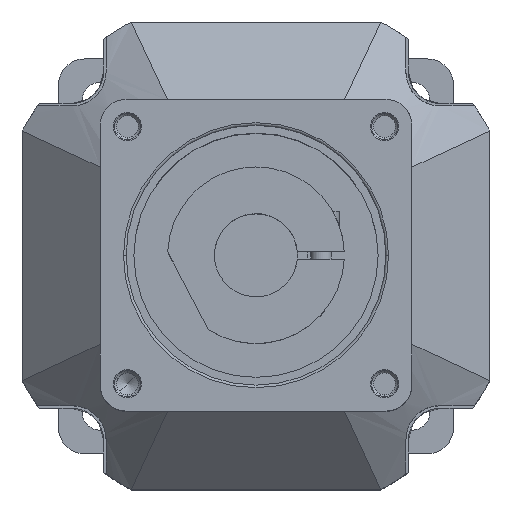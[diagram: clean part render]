
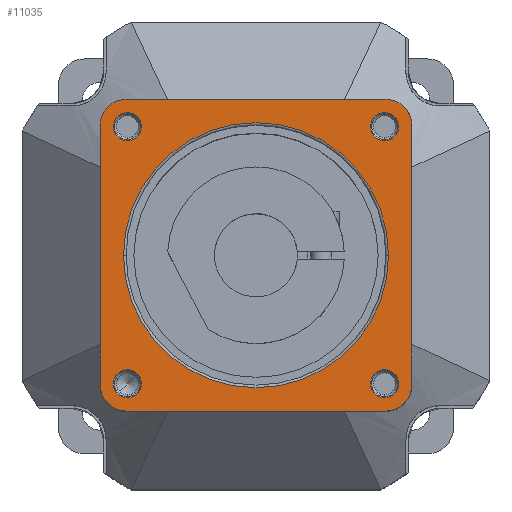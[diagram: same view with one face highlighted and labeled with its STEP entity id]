
A CAD part, top view. The second image highlights one B-rep face of the part: STEP entity #11035.
In plain terms, the highlighted planar face has unit normal (0, 0, 1) as drawn and (0, 1, 0) by its records, which use the part's own axes.
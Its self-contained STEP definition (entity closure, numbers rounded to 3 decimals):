
#9800=CARTESIAN_POINT('',(-25.,41.5,-25.));
#9801=DIRECTION('',(0.,1.,0.));
#9802=DIRECTION('',(0.,0.,-1.));
#9803=AXIS2_PLACEMENT_3D('',#9800,#9801,#9802);
#9805=DIRECTION('',(-1.,0.,0.));
#9806=VECTOR('',#9805,50.);
#9807=CARTESIAN_POINT('',(25.,41.5,-30.));
#9808=LINE('',#9807,#9806);
#9809=CARTESIAN_POINT('',(25.,41.5,-25.));
#9810=DIRECTION('',(0.,1.,0.));
#9811=DIRECTION('',(1.,0.,0.));
#9812=AXIS2_PLACEMENT_3D('',#9809,#9810,#9811);
#9814=DIRECTION('',(0.,0.,-1.));
#9815=VECTOR('',#9814,50.);
#9816=CARTESIAN_POINT('',(30.,41.5,25.));
#9817=LINE('',#9816,#9815);
#9818=CARTESIAN_POINT('',(25.,41.5,25.));
#9819=DIRECTION('',(0.,1.,0.));
#9820=DIRECTION('',(0.,0.,1.));
#9821=AXIS2_PLACEMENT_3D('',#9818,#9819,#9820);
#9823=DIRECTION('',(1.,0.,0.));
#9824=VECTOR('',#9823,50.);
#9825=CARTESIAN_POINT('',(-25.,41.5,30.));
#9826=LINE('',#9825,#9824);
#9827=CARTESIAN_POINT('',(-25.,41.5,25.));
#9828=DIRECTION('',(0.,1.,0.));
#9829=DIRECTION('',(-1.,0.,0.));
#9830=AXIS2_PLACEMENT_3D('',#9827,#9828,#9829);
#9832=DIRECTION('',(0.,0.,1.));
#9833=VECTOR('',#9832,50.);
#9834=CARTESIAN_POINT('',(-30.,41.5,-25.));
#9835=LINE('',#9834,#9833);
#9836=CARTESIAN_POINT('',(-24.749,41.5,24.749));
#9837=DIRECTION('',(0.,-1.,0.));
#9838=DIRECTION('',(1.,0.,0.));
#9839=AXIS2_PLACEMENT_3D('',#9836,#9837,#9838);
#9846=CARTESIAN_POINT('',(-24.749,41.5,24.749));
#9847=DIRECTION('',(0.,-1.,0.));
#9848=DIRECTION('',(-1.,0.,0.));
#9849=AXIS2_PLACEMENT_3D('',#9846,#9847,#9848);
#9882=CARTESIAN_POINT('',(-24.749,41.5,-24.749));
#9883=DIRECTION('',(0.,-1.,0.));
#9884=DIRECTION('',(1.,0.,0.));
#9885=AXIS2_PLACEMENT_3D('',#9882,#9883,#9884);
#9892=CARTESIAN_POINT('',(-24.749,41.5,-24.749));
#9893=DIRECTION('',(0.,-1.,0.));
#9894=DIRECTION('',(-1.,0.,0.));
#9895=AXIS2_PLACEMENT_3D('',#9892,#9893,#9894);
#9928=CARTESIAN_POINT('',(24.749,41.5,-24.749));
#9929=DIRECTION('',(0.,-1.,0.));
#9930=DIRECTION('',(1.,0.,0.));
#9931=AXIS2_PLACEMENT_3D('',#9928,#9929,#9930);
#9938=CARTESIAN_POINT('',(24.749,41.5,-24.749));
#9939=DIRECTION('',(0.,-1.,0.));
#9940=DIRECTION('',(-1.,0.,0.));
#9941=AXIS2_PLACEMENT_3D('',#9938,#9939,#9940);
#9978=CARTESIAN_POINT('',(24.749,41.5,24.749));
#9979=DIRECTION('',(0.,-1.,0.));
#9980=DIRECTION('',(1.,0.,0.));
#9981=AXIS2_PLACEMENT_3D('',#9978,#9979,#9980);
#9988=CARTESIAN_POINT('',(24.749,41.5,24.749));
#9989=DIRECTION('',(0.,-1.,0.));
#9990=DIRECTION('',(-1.,0.,0.));
#9991=AXIS2_PLACEMENT_3D('',#9988,#9989,#9990);
#10042=CARTESIAN_POINT('',(0.,41.5,0.));
#10043=DIRECTION('',(0.,-1.,0.));
#10044=DIRECTION('',(0.,0.,1.));
#10045=AXIS2_PLACEMENT_3D('',#10042,#10043,#10044);
#10057=CARTESIAN_POINT('',(0.,41.5,0.));
#10058=DIRECTION('',(0.,-1.,0.));
#10059=DIRECTION('',(0.,0.,-1.));
#10060=AXIS2_PLACEMENT_3D('',#10057,#10058,#10059);
#10262=CARTESIAN_POINT('',(-30.,41.5,-25.));
#10263=CARTESIAN_POINT('',(-30.,41.5,25.));
#10264=VERTEX_POINT('',#10262);
#10265=VERTEX_POINT('',#10263);
#10266=CARTESIAN_POINT('',(-25.,41.5,30.));
#10267=CARTESIAN_POINT('',(25.,41.5,30.));
#10268=VERTEX_POINT('',#10266);
#10269=VERTEX_POINT('',#10267);
#10270=CARTESIAN_POINT('',(30.,41.5,25.));
#10271=CARTESIAN_POINT('',(30.,41.5,-25.));
#10272=VERTEX_POINT('',#10270);
#10273=VERTEX_POINT('',#10271);
#10274=CARTESIAN_POINT('',(25.,41.5,-30.));
#10275=CARTESIAN_POINT('',(-25.,41.5,-30.));
#10276=VERTEX_POINT('',#10274);
#10277=VERTEX_POINT('',#10275);
#10360=CARTESIAN_POINT('',(27.449,41.5,24.749));
#10361=CARTESIAN_POINT('',(22.049,41.5,24.749));
#10362=VERTEX_POINT('',#10360);
#10363=VERTEX_POINT('',#10361);
#10368=CARTESIAN_POINT('',(-22.049,41.5,24.749));
#10369=CARTESIAN_POINT('',(-27.449,41.5,24.749));
#10370=VERTEX_POINT('',#10368);
#10371=VERTEX_POINT('',#10369);
#10376=CARTESIAN_POINT('',(-22.049,41.5,-24.749));
#10377=CARTESIAN_POINT('',(-27.449,41.5,-24.749));
#10378=VERTEX_POINT('',#10376);
#10379=VERTEX_POINT('',#10377);
#10384=CARTESIAN_POINT('',(27.449,41.5,-24.749));
#10385=CARTESIAN_POINT('',(22.049,41.5,-24.749));
#10386=VERTEX_POINT('',#10384);
#10387=VERTEX_POINT('',#10385);
#10432=CARTESIAN_POINT('',(0.,41.5,25.5));
#10433=CARTESIAN_POINT('',(0.,41.5,-25.5));
#10434=VERTEX_POINT('',#10432);
#10435=VERTEX_POINT('',#10433);
#10989=CARTESIAN_POINT('',(0.,41.5,0.));
#10990=DIRECTION('',(0.,-1.,0.));
#10991=DIRECTION('',(-1.,0.,0.));
#10992=AXIS2_PLACEMENT_3D('',#10989,#10990,#10991);
#10993=PLANE('',#10992);
#10994=ORIENTED_EDGE('',*,*,#10887,.F.);
#10995=ORIENTED_EDGE('',*,*,#10905,.F.);
#10996=ORIENTED_EDGE('',*,*,#10983,.F.);
#10997=ORIENTED_EDGE('',*,*,#10692,.F.);
#10998=ORIENTED_EDGE('',*,*,#10711,.F.);
#10999=ORIENTED_EDGE('',*,*,#10727,.F.);
#11001=ORIENTED_EDGE('',*,*,#11000,.F.);
#11002=ORIENTED_EDGE('',*,*,#10812,.F.);
#11003=EDGE_LOOP('',(#10994,#10995,#10996,#10997,#10998,#10999,#11001,#11002));
#11004=FACE_OUTER_BOUND('',#11003,.F.);
#11006=ORIENTED_EDGE('',*,*,#11005,.F.);
#11008=ORIENTED_EDGE('',*,*,#11007,.F.);
#11009=EDGE_LOOP('',(#11006,#11008));
#11010=FACE_BOUND('',#11009,.F.);
#11012=ORIENTED_EDGE('',*,*,#11011,.F.);
#11014=ORIENTED_EDGE('',*,*,#11013,.F.);
#11015=EDGE_LOOP('',(#11012,#11014));
#11016=FACE_BOUND('',#11015,.F.);
#11018=ORIENTED_EDGE('',*,*,#11017,.F.);
#11020=ORIENTED_EDGE('',*,*,#11019,.F.);
#11021=EDGE_LOOP('',(#11018,#11020));
#11022=FACE_BOUND('',#11021,.F.);
#11024=ORIENTED_EDGE('',*,*,#11023,.F.);
#11026=ORIENTED_EDGE('',*,*,#11025,.F.);
#11027=EDGE_LOOP('',(#11024,#11026));
#11028=FACE_BOUND('',#11027,.F.);
#11030=ORIENTED_EDGE('',*,*,#11029,.F.);
#11032=ORIENTED_EDGE('',*,*,#11031,.F.);
#11033=EDGE_LOOP('',(#11030,#11032));
#11034=FACE_BOUND('',#11033,.F.);
#11035=ADVANCED_FACE('',(#11004,#11010,#11016,#11022,#11028,#11034),#10993,.F.);
#9804=CIRCLE('',#9803,5.);
#9813=CIRCLE('',#9812,5.);
#9822=CIRCLE('',#9821,5.);
#9831=CIRCLE('',#9830,5.);
#9840=CIRCLE('',#9839,2.7);
#9850=CIRCLE('',#9849,2.7);
#9886=CIRCLE('',#9885,2.7);
#9896=CIRCLE('',#9895,2.7);
#9932=CIRCLE('',#9931,2.7);
#9942=CIRCLE('',#9941,2.7);
#9982=CIRCLE('',#9981,2.7);
#9992=CIRCLE('',#9991,2.7);
#10046=CIRCLE('',#10045,25.5);
#10061=CIRCLE('',#10060,25.5);
#10692=EDGE_CURVE('',#10272,#10273,#9817,.T.);
#10711=EDGE_CURVE('',#10269,#10272,#9822,.T.);
#10727=EDGE_CURVE('',#10268,#10269,#9826,.T.);
#10812=EDGE_CURVE('',#10264,#10265,#9835,.T.);
#10887=EDGE_CURVE('',#10277,#10264,#9804,.T.);
#10905=EDGE_CURVE('',#10276,#10277,#9808,.T.);
#10983=EDGE_CURVE('',#10273,#10276,#9813,.T.);
#11000=EDGE_CURVE('',#10265,#10268,#9831,.T.);
#11005=EDGE_CURVE('',#10370,#10371,#9840,.T.);
#11007=EDGE_CURVE('',#10371,#10370,#9850,.T.);
#11011=EDGE_CURVE('',#10378,#10379,#9886,.T.);
#11013=EDGE_CURVE('',#10379,#10378,#9896,.T.);
#11017=EDGE_CURVE('',#10386,#10387,#9932,.T.);
#11019=EDGE_CURVE('',#10387,#10386,#9942,.T.);
#11023=EDGE_CURVE('',#10362,#10363,#9982,.T.);
#11025=EDGE_CURVE('',#10363,#10362,#9992,.T.);
#11029=EDGE_CURVE('',#10434,#10435,#10046,.T.);
#11031=EDGE_CURVE('',#10435,#10434,#10061,.T.);
